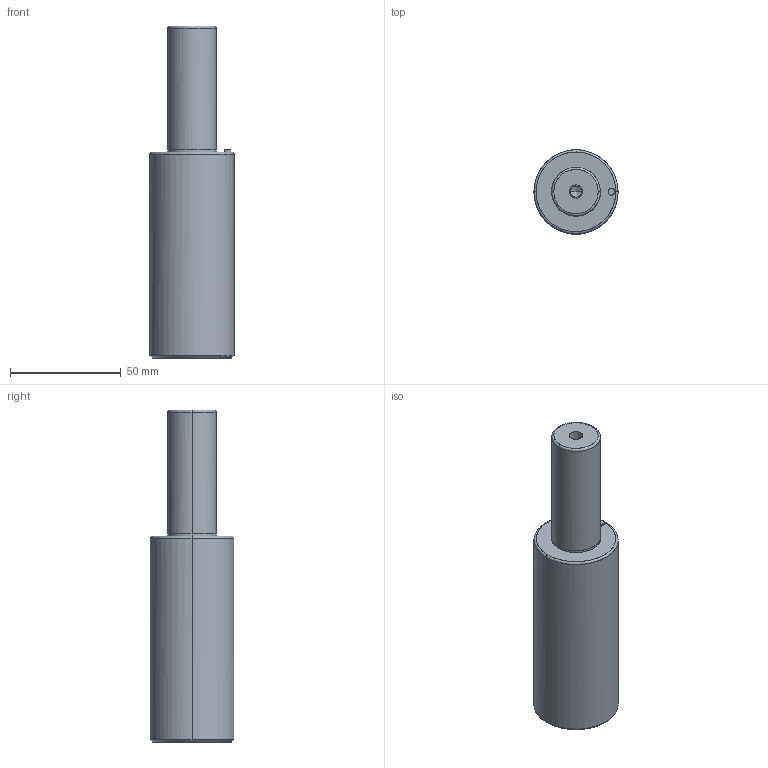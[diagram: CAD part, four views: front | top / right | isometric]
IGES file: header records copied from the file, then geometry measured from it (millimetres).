
Global section: file name: E:\UnigraphicsGraphicData\MISUMI_PRESS-PARTS\IGES\3d_gsc38-56_03831_r00.igs; native system: NX V5.0; preprocessor: UGS NX IGES V5.0; author: MISUMI; date: 20110105.160748; units: millimetre
Bounding box: 38 x 37.93 x 150 mm (x, y, z)
Surface area: 17760.2 mm2 (no closed solid volume)
Topology: 0 solids, 0 shells, 32 faces, 216 edges, 212 vertices
Faces by surface type: bspline 32
